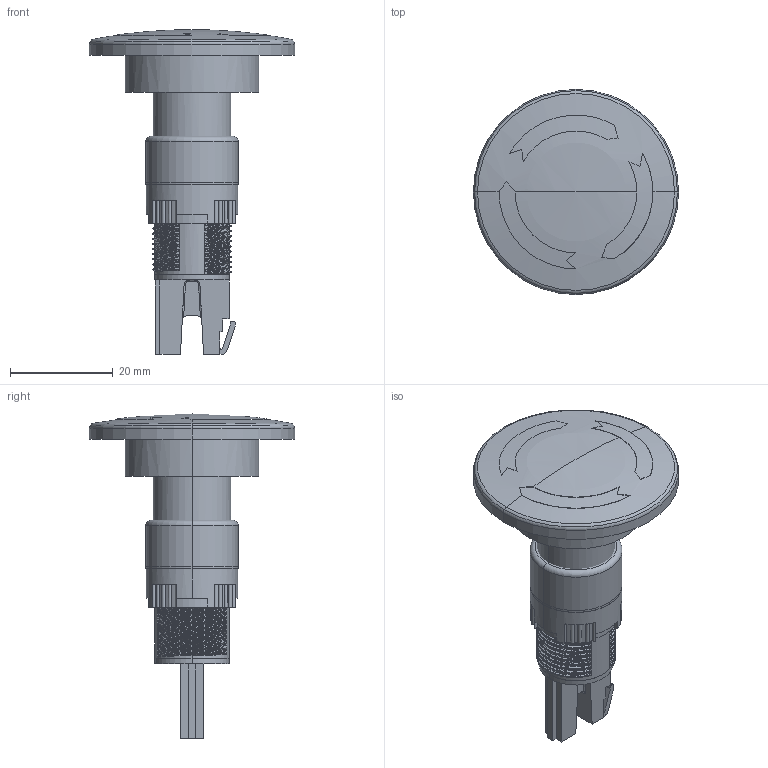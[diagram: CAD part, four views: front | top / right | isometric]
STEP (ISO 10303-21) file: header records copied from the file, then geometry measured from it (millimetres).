
FILE_DESCRIPTION((''),'2;1');
FILE_NAME('A01ES-DSP3','2016-09-20T',('brevel'),(''),'CREO PARAMETRIC BY PTC INC, 2015380','CREO PARAMETRIC BY PTC INC, 2015380','');
FILE_SCHEMA(('CONFIG_CONTROL_DESIGN'));
Length unit declared in the file: millimetre
Products named in the file (1): A01ES-DSP3
Bounding box: 40 x 40 x 63.3 mm (x, y, z)
Surface area: 9702.4 mm2 (no closed solid volume)
Topology: 0 solids, 14 shells, 374 faces, 1321 edges, 914 vertices
Faces by surface type: plane 152, cylinder 104, bspline 103, torus 10, sphere 5
Entity records: 84695 total; most frequent: CARTESIAN_POINT 74367, ORIENTED_EDGE 2285, DIRECTION 1792, EDGE_CURVE 1315, VERTEX_POINT 914, AXIS2_PLACEMENT_3D 633, VECTOR 526, LINE 526
